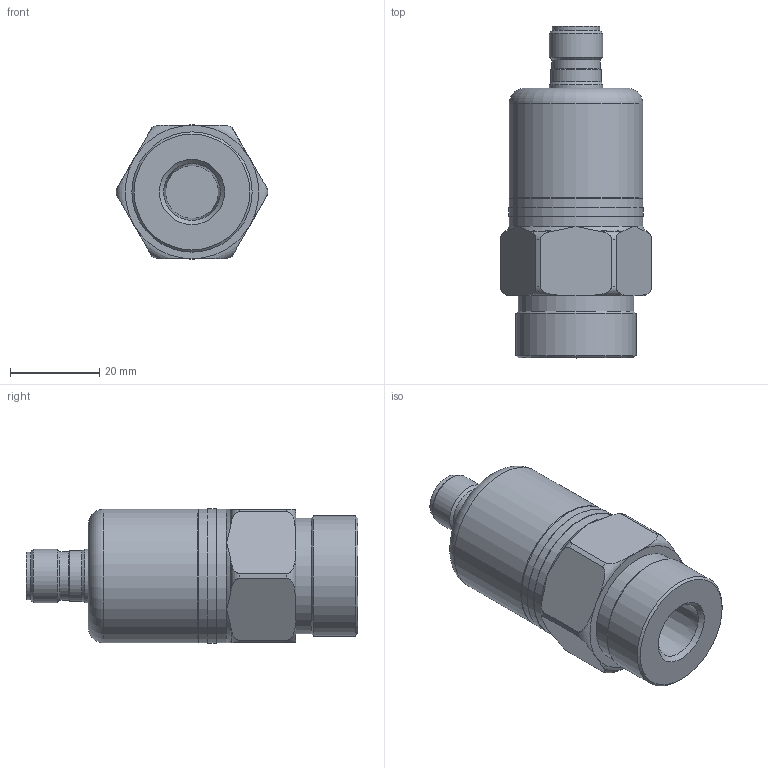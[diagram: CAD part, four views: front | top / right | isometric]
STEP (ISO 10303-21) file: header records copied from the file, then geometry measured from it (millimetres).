
FILE_DESCRIPTION( ( 'STEP AP203' ), ' ' );
FILE_NAME( 'p:/temp/worker_7/2888_1708/app_61_02015090811374994945946192d056f_000000_00_00_000000/format_1/PA3221.stp', '2015-09-08T09:37:50', ( '' ), ( '' ), ' ', 'PARTsolutions', ' ' );
FILE_SCHEMA( ( 'CONFIG_CONTROL_DESIGN' ) );
Length unit declared in the file: millimetre
Products named in the file (1): _PA3221
Bounding box: 34 x 74.55 x 30.2 mm (x, y, z)
Volume: 40729.4 mm3; surface area: 8409.2 mm2
Topology: 1 solids, 1 shells, 74 faces, 163 edges, 100 vertices
Faces by surface type: plane 20, torus 19, cylinder 19, cone 16
Full cylindrical faces by diameter (mm): 8.4 x1, 10.6 x1, 10.8 x1, 11.3 x1, 12 x2, 26 x1, 27 x1, 30 x3, 30.2 x1
Entity records: 2306 total; most frequent: CARTESIAN_POINT 765, DIRECTION 312, ORIENTED_EDGE 278, AXIS2_PLACEMENT_3D 146, EDGE_CURVE 139, EDGE_LOOP 106, VERTEX_POINT 99, FACE_OUTER_BOUND 87
